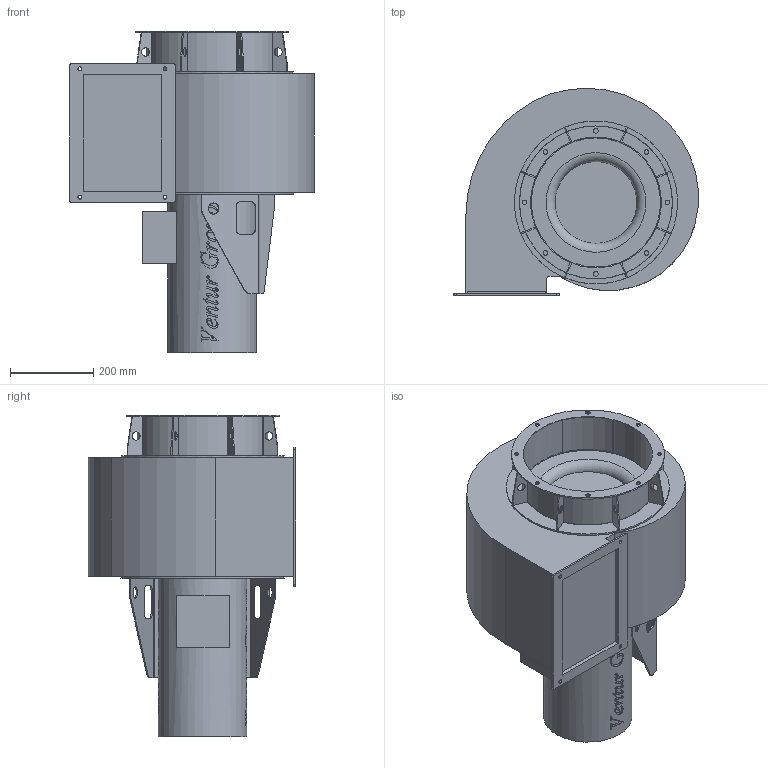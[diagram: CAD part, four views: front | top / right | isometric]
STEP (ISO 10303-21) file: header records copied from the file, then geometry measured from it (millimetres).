
FILE_DESCRIPTION(/* description */ (''),/* implementation_level */ '2;1');
FILE_NAME(/* name */ 'E:\Mariusz\Modele uproszczone\GMT-K\GMT-K_600_550T RD90 43552370\GMT-K_600_550T RD90 43552370\GMT-K_600_550T RD90 43552370.stp',/* time_stamp */ '2018-07-18T10:10:55+02:00',/* author */ ('M.Janczarek'),/* organization */ (''),/* preprocessor_version */ 'ST-DEVELOPER v16.5',/* originating_system */ 'Autodesk Inventor 2017',/* authorisation */ '');
FILE_SCHEMA (('AUTOMOTIVE_DESIGN { 1 0 10303 214 3 1 1 }'));
Length unit declared in the file: millimetre
Products named in the file (1): GMT-K_600_550T RD90 43552370
Bounding box: 588.94 x 498.98 x 774.1 mm (x, y, z)
Volume: 80176225.5 mm3; surface area: 1876519.9 mm2
Topology: 1 solids, 1 shells, 715 faces, 2004 edges, 1322 vertices
Faces by surface type: bspline 427, plane 179, cylinder 108, torus 1
Full cylindrical faces by diameter (mm): 9.2 x4, 11 x8, 20 x8, 27 x2, 212.9 x1, 311 x1, 315 x1, 368 x1, 392 x1, 393 x1
Entity records: 30725 total; most frequent: CARTESIAN_POINT 14539, ORIENTED_EDGE 3956, DIRECTION 2090, EDGE_CURVE 1970, VERTEX_POINT 1318, LINE 952, VECTOR 952, EDGE_LOOP 836
